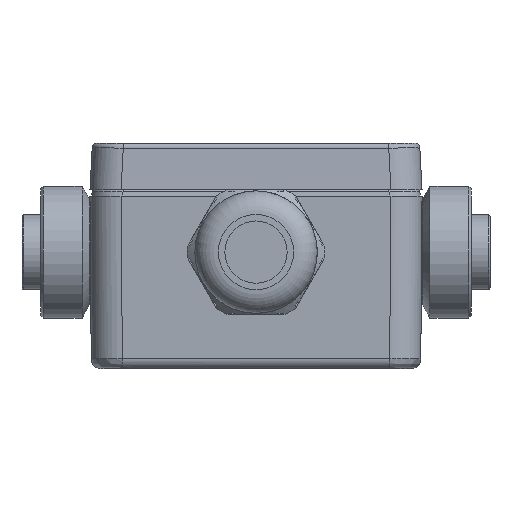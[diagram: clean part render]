
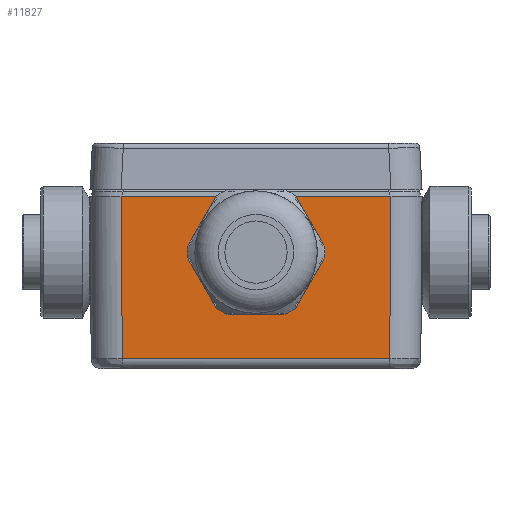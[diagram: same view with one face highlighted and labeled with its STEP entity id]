
A CAD part, left-side view. The second image highlights one B-rep face of the part: STEP entity #11827.
In plain terms, the highlighted planar face has unit normal (-1, 0, -0.007).
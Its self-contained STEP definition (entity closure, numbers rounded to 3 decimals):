
#72 = DIRECTION ( 'NONE',  ( 0.008, 0.008, -1. ) ) ;
#424 = CARTESIAN_POINT ( 'NONE',  ( -92.515, 25.765, -17.015 ) ) ;
#1443 = CARTESIAN_POINT ( 'NONE',  ( -92.515, 0., -17.015 ) ) ;
#1507 = ORIENTED_EDGE ( 'NONE', *, *, #19890, .F. ) ;
#1795 = CARTESIAN_POINT ( 'NONE',  ( -92.75, 0., 14.3 ) ) ;
#1941 = EDGE_CURVE ( 'NONE', #14031, #24669, #22910, .T. ) ;
#2344 = DIRECTION ( 'NONE',  ( 1., 0., 0.008 ) ) ;
#2400 = LINE ( 'NONE', #1443, #13247 ) ;
#3776 = VERTEX_POINT ( 'NONE', #5571 ) ;
#4341 = DIRECTION ( 'NONE',  ( 0.008, 0., -1. ) ) ;
#4410 = LINE ( 'NONE', #1795, #5638 ) ;
#5571 = CARTESIAN_POINT ( 'NONE',  ( -92.515, -25.765, -17.015 ) ) ;
#5638 = VECTOR ( 'NONE', #19541, 1000. ) ;
#7568 = DIRECTION ( 'NONE',  ( -0.008, 0.008, 1. ) ) ;
#8570 = AXIS2_PLACEMENT_3D ( 'NONE', #24258, #2344, #4341 ) ;
#9362 = VECTOR ( 'NONE', #72, 1000. ) ;
#9662 = CARTESIAN_POINT ( 'NONE',  ( -92.622, 25.872, -2.772 ) ) ;
#10204 = PLANE ( 'NONE',  #8570 ) ;
#10802 = VECTOR ( 'NONE', #7568, 1000. ) ;
#11827 = ADVANCED_FACE ( 'NONE', ( #12111 ), #10204, .F. ) ;
#12111 = FACE_OUTER_BOUND ( 'NONE', #24066, .T. ) ;
#13005 = ORIENTED_EDGE ( 'NONE', *, *, #19983, .T. ) ;
#13183 = ORIENTED_EDGE ( 'NONE', *, *, #14939, .F. ) ;
#13247 = VECTOR ( 'NONE', #20741, 1000. ) ;
#14031 = VERTEX_POINT ( 'NONE', #424 ) ;
#14528 = VERTEX_POINT ( 'NONE', #18855 ) ;
#14939 = EDGE_CURVE ( 'NONE', #3776, #14031, #2400, .T. ) ;
#15873 = ORIENTED_EDGE ( 'NONE', *, *, #1941, .F. ) ;
#18855 = CARTESIAN_POINT ( 'NONE',  ( -92.75, -26., 14.3 ) ) ;
#19541 = DIRECTION ( 'NONE',  ( 0., 1., 0. ) ) ;
#19890 = EDGE_CURVE ( 'NONE', #14528, #3776, #20222, .T. ) ;
#19983 = EDGE_CURVE ( 'NONE', #14528, #24669, #4410, .T. ) ;
#20222 = LINE ( 'NONE', #23901, #9362 ) ;
#20741 = DIRECTION ( 'NONE',  ( 0., 1., 0. ) ) ;
#22910 = LINE ( 'NONE', #9662, #10802 ) ;
#23901 = CARTESIAN_POINT ( 'NONE',  ( -92.622, -25.872, -2.772 ) ) ;
#24066 = EDGE_LOOP ( 'NONE', ( #13183, #1507, #13005, #15873 ) ) ;
#24258 = CARTESIAN_POINT ( 'NONE',  ( -92.625, 0., -2.35 ) ) ;
#24669 = VERTEX_POINT ( 'NONE', #25335 ) ;
#25335 = CARTESIAN_POINT ( 'NONE',  ( -92.75, 26., 14.3 ) ) ;
